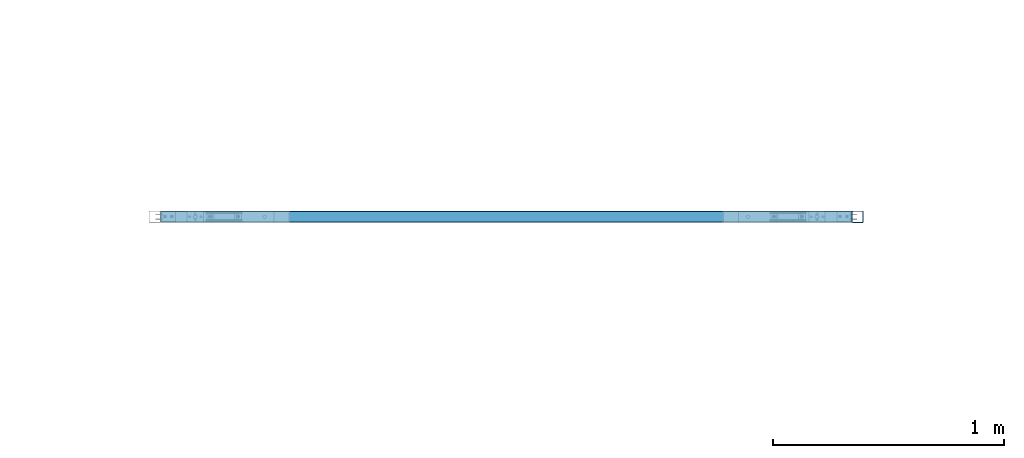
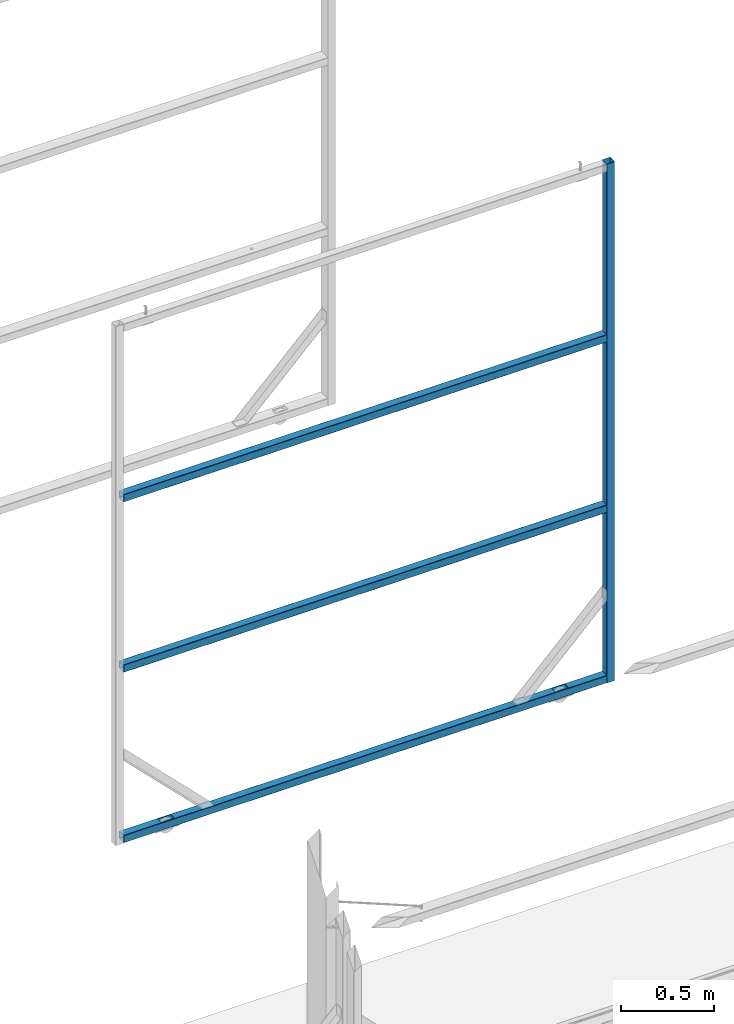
# One storey, part 14 of 91: 4 discrete accessories, 1 element without a shape of its own.
"""IFC2X3 building model written with IfcOpenShell, lengths in millimetres."""

from ifc_helpers import new_model, si_unit, frame, origin_with_axes, origin_2d_with_axis, place, context, subcontext, project, spatial, polyline, hollow_rectangle, outline, extrude, boolean, material, type_object, element, aggregate, save


model = new_model("IFC2X3")

# Units and contexts
model_context = context("Model", 3, precision=1e-05, world=origin_with_axes())
body_context = subcontext(model_context, "Body", "Model", "MODEL_VIEW")
ifc_project = project(units=[si_unit("LENGTHUNIT", "METRE", prefix="MILLI"), si_unit("AREAUNIT", "SQUARE_METRE"), si_unit("VOLUMEUNIT", "CUBIC_METRE"), si_unit("MASSUNIT", "GRAM", prefix="KILO"), si_unit("TIMEUNIT", "SECOND"), si_unit("PLANEANGLEUNIT", "RADIAN"), si_unit("SOLIDANGLEUNIT", "STERADIAN"), si_unit("THERMODYNAMICTEMPERATUREUNIT", "DEGREE_CELSIUS"), si_unit("LUMINOUSINTENSITYUNIT", "LUMEN")], contexts=[model_context])

# Site, building, storey
site_placement = place(None, origin_with_axes())
site = spatial("IfcSite", under=ifc_project, at=site_placement, Name="Undefined", CompositionType="ELEMENT")
building_placement = place(site_placement, origin_with_axes())
building = spatial("IfcBuilding", under=site, at=building_placement, Name="Undefined", CompositionType="ELEMENT")
storey_placement = place(building_placement, origin_with_axes())
storey = spatial("IfcBuildingStorey", under=building, at=storey_placement, Name="Undefined", CompositionType="ELEMENT", Elevation=0.0)

# Assembly, discrete accessories
assembly_placement = place(storey_placement, origin_with_axes())
assembly = element("IfcElementAssembly", 1, at=assembly_placement, inside=storey, Name="Sliding Door Beam", AssemblyPlace="NOTDEFINED", PredefinedType="RIGID_FRAME")
ifc_material_1 = material(Name="STEEL/300")
discrete_accessory_type_1 = type_object("IfcDiscreteAccessoryType", Name="Sliding Door Post")
discrete_accessory_1_placement = place(assembly_placement, frame((-110576.29, 90380.0, -17.0), z_axis=(0.0, 0.0, 1.0), x_axis=(0.0, 1.0, 0.0)))
discrete_accessory_1 = element("IfcDiscreteAccessory", 2, at=discrete_accessory_1_placement, type_object=discrete_accessory_type_1, material=ifc_material_1, Name="Sliding Door Post", ObjectType="SHS:50x50x2.0", context=body_context, shape_type="SweptSolid", body=[
    extrude(hollow_rectangle(XDim=50.0, YDim=50.0, WallThickness=2.0, InnerFilletRadius=2.0, OuterFilletRadius=4.0, at=origin_2d_with_axis()), frame((0.0, 0.0, 3393.0), z_axis=(0.0, 0.0, -1.0), x_axis=(0.0, 1.0, 0.0)), (0.0, 0.0, 1.0), 3393.0),
])
ifc_material_2 = material(Name="STEEL/300PLUS")
discrete_accessory_type_2 = type_object("IfcDiscreteAccessoryType", Name="Sliding Door Beam")
discrete_accessory_2_placement = place(assembly_placement, frame((-110601.29, 90380.0, 2236.66333333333), z_axis=(0.0, -1.0, 0.0), x_axis=(-1.0, 0.0, 0.0)))
discrete_accessory_2 = element("IfcDiscreteAccessory", 3, at=discrete_accessory_2_placement, type_object=discrete_accessory_type_2, material=ifc_material_2, Name="Sliding Door Beam", ObjectType="SHS:50x50x2.0", context=body_context, shape_type="SweptSolid", body=[
    extrude(hollow_rectangle(XDim=50.0, YDim=50.0, WallThickness=2.0, InnerFilletRadius=2.0, OuterFilletRadius=4.0, at=origin_2d_with_axis()), frame((2987.5, 0.0, 0.0), z_axis=(-1.0, 0.0, 0.0), x_axis=(0.0, -1.0, 0.0)), (0.0, 0.0, 1.0), 2987.5),
])
discrete_accessory_3_placement = place(assembly_placement, frame((-110601.29, 90380.0, 1122.33666666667), z_axis=(0.0, -1.0, 0.0), x_axis=(-1.0, 0.0, 0.0)))
discrete_accessory_3 = element("IfcDiscreteAccessory", 4, at=discrete_accessory_3_placement, type_object=discrete_accessory_type_2, material=ifc_material_2, Name="Sliding Door Beam", ObjectType="SHS:50x50x2.0", context=body_context, shape_type="SweptSolid", body=[
    extrude(hollow_rectangle(XDim=50.0, YDim=50.0, WallThickness=2.0, InnerFilletRadius=2.0, OuterFilletRadius=4.0, at=origin_2d_with_axis()), frame((2987.5, 0.0, 0.0), z_axis=(-1.0, 0.0, 0.0), x_axis=(0.0, -1.0, 0.0)), (0.0, 0.0, 1.0), 2987.5),
])
discrete_accessory_4_placement = place(assembly_placement, frame((-110601.29, 90380.0, 8.0), z_axis=(0.0, -1.0, 0.0), x_axis=(-1.0, 0.0, 0.0)))
discrete_accessory_4 = element("IfcDiscreteAccessory", 5, at=discrete_accessory_4_placement, type_object=discrete_accessory_type_2, material=ifc_material_2, Name="Sliding Door Beam", ObjectType="SHS:50x50x2.0", context=body_context, shape_type="CSG", body=[
    boolean("DIFFERENCE", boolean("DIFFERENCE", boolean("DIFFERENCE", boolean("DIFFERENCE", extrude(hollow_rectangle(XDim=50.0, YDim=50.0, WallThickness=2.0, InnerFilletRadius=2.0, OuterFilletRadius=4.0, at=origin_2d_with_axis()), frame((2987.5, 0.0, 0.0), z_axis=(-1.0, 0.0, 0.0), x_axis=(0.0, -1.0, 0.0)), (0.0, 0.0, 1.0), 2987.5), extrude(outline(polyline([(0.0, 0.0), (38.0, 0.0), (38.0, 100.0), (0.0, 100.0), (0.0, 0.0)])), frame((224.99875659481, 35.5, 19.0), z_axis=(0.0, -1.0, 0.0), x_axis=(0.0, 0.0, -1.0)), (0.0, 0.0, 1.0), 25.0)), extrude(outline(polyline([(0.0, 0.0), (38.0, 0.0), (38.0, 80.0), (0.0, 80.0), (0.0, 0.0)])), frame((234.99875659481, -12.5, 19.0), z_axis=(0.0, -1.0, 0.0), x_axis=(0.0, 0.0, -1.0)), (0.0, 0.0, 1.0), 25.0)), extrude(outline(polyline([(0.0, 0.0), (38.0, 0.0), (38.0, 100.0), (0.0, 100.0), (0.0, 0.0)])), frame((2662.49875659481, 35.5, 19.0), z_axis=(0.0, -1.0, 0.0), x_axis=(0.0, 0.0, -1.0)), (0.0, 0.0, 1.0), 25.0)), extrude(outline(polyline([(0.0, 0.0), (38.0, 0.0), (38.0, 80.0), (0.0, 80.0), (0.0, 0.0)])), frame((2672.49875659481, -12.5, 19.0), z_axis=(0.0, -1.0, 0.0), x_axis=(0.0, 0.0, -1.0)), (0.0, 0.0, 1.0), 25.0)),
])
aggregate(assembly, [discrete_accessory_1, discrete_accessory_2, discrete_accessory_3, discrete_accessory_4])

save(model, "model.ifc")
